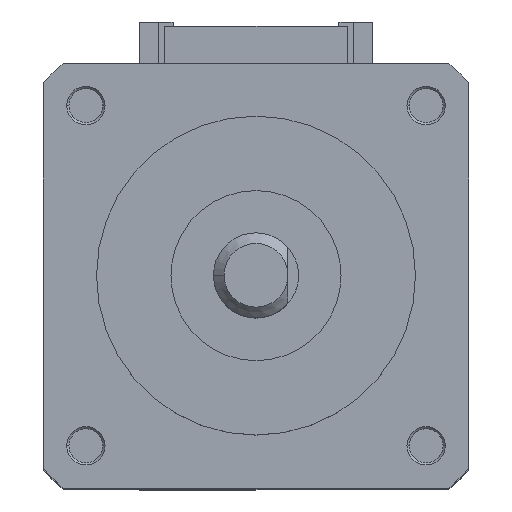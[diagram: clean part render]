
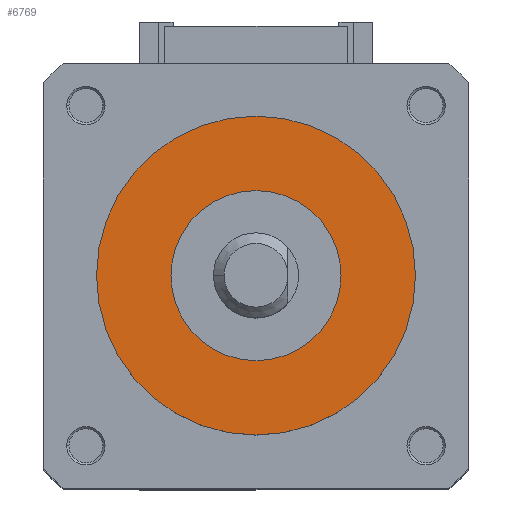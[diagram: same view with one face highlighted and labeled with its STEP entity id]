
A CAD part, top view. The second image highlights one B-rep face of the part: STEP entity #6769.
In plain terms, the highlighted planar face has unit normal (0, 0, 1).
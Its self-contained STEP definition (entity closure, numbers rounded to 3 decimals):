
#53 = EDGE_CURVE ( 'NONE', #7291, #7209, #1684, .T. ) ;
#62 = EDGE_CURVE ( 'NONE', #7024, #7128, #1698, .T. ) ;
#75 = AXIS2_PLACEMENT_3D ( 'NONE', #2350, #2349, #2348 ) ;
#82 = AXIS2_PLACEMENT_3D ( 'NONE', #2333, #2314, #2313 ) ;
#291 = AXIS2_PLACEMENT_3D ( 'NONE', #5007, #5015, #5016 ) ;
#292 = AXIS2_PLACEMENT_3D ( 'NONE', #5011, #5018, #5019 ) ;
#1486 = EDGE_LOOP ( 'NONE', ( #2594, #2595 ) ) ;
#1516 = EDGE_LOOP ( 'NONE', ( #2592, #2593 ) ) ;
#1684 = CIRCLE ( 'NONE', #75, 7.5 ) ;
#1698 = CIRCLE ( 'NONE', #82, 4. ) ;
#2313 = DIRECTION ( 'NONE',  ( 1., 0., 0. ) ) ;
#2314 = DIRECTION ( 'NONE',  ( 0., 0., 1. ) ) ;
#2333 = CARTESIAN_POINT ( 'NONE',  ( 0., 0., 4.536 ) ) ;
#2348 = DIRECTION ( 'NONE',  ( 1., 0., 0. ) ) ;
#2349 = DIRECTION ( 'NONE',  ( 0., 0., 1. ) ) ;
#2350 = CARTESIAN_POINT ( 'NONE',  ( 0., 0., 4.536 ) ) ;
#2592 = ORIENTED_EDGE ( 'NONE', *, *, #6463, .F. ) ;
#2593 = ORIENTED_EDGE ( 'NONE', *, *, #62, .F. ) ;
#2594 = ORIENTED_EDGE ( 'NONE', *, *, #6462, .T. ) ;
#2595 = ORIENTED_EDGE ( 'NONE', *, *, #53, .T. ) ;
#3145 = FACE_OUTER_BOUND ( 'NONE', #1486, .T. ) ;
#3150 = FACE_BOUND ( 'NONE', #1516, .T. ) ;
#3576 = CIRCLE ( 'NONE', #291, 7.5 ) ;
#3578 = CIRCLE ( 'NONE', #292, 4. ) ;
#4041 = CARTESIAN_POINT ( 'NONE',  ( -4., 0., 4.536 ) ) ;
#4142 = CARTESIAN_POINT ( 'NONE',  ( 4., 0., 4.536 ) ) ;
#4223 = CARTESIAN_POINT ( 'NONE',  ( -7.5, 0., 4.536 ) ) ;
#4305 = CARTESIAN_POINT ( 'NONE',  ( 7.5, 0., 4.536 ) ) ;
#5007 = CARTESIAN_POINT ( 'NONE',  ( 0., 0., 4.536 ) ) ;
#5011 = CARTESIAN_POINT ( 'NONE',  ( 0., 0., 4.536 ) ) ;
#5015 = DIRECTION ( 'NONE',  ( 0., 0., 1. ) ) ;
#5016 = DIRECTION ( 'NONE',  ( 1., 0., 0. ) ) ;
#5018 = DIRECTION ( 'NONE',  ( 0., 0., 1. ) ) ;
#5019 = DIRECTION ( 'NONE',  ( 1., 0., 0. ) ) ;
#6011 = CARTESIAN_POINT ( 'NONE',  ( 0., 0., 4.536 ) ) ;
#6018 = PLANE ( 'NONE',  #6284 ) ;
#6019 = DIRECTION ( 'NONE',  ( 0., 0., 1. ) ) ;
#6020 = DIRECTION ( 'NONE',  ( 1., 0., 0. ) ) ;
#6284 = AXIS2_PLACEMENT_3D ( 'NONE', #6011, #6019, #6020 ) ;
#6462 = EDGE_CURVE ( 'NONE', #7209, #7291, #3576, .T. ) ;
#6463 = EDGE_CURVE ( 'NONE', #7128, #7024, #3578, .T. ) ;
#6769 = ADVANCED_FACE ( 'NONE', ( #3150, #3145 ), #6018, .T. ) ;
#7024 = VERTEX_POINT ( 'NONE', #4041 ) ;
#7128 = VERTEX_POINT ( 'NONE', #4142 ) ;
#7209 = VERTEX_POINT ( 'NONE', #4223 ) ;
#7291 = VERTEX_POINT ( 'NONE', #4305 ) ;
